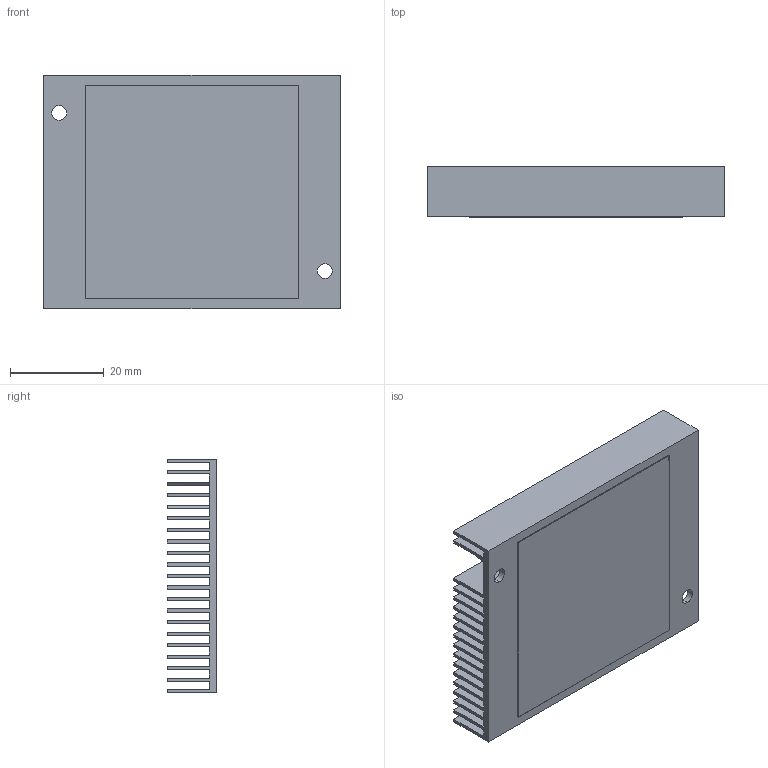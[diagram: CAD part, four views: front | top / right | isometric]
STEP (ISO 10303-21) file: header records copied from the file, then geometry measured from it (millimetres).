
FILE_DESCRIPTION (( 'STEP AP214' ), '1' );
FILE_NAME ('SZ00L.STEP', '2023-03-30T00:06:19', ( '' ), ( '' ), 'SwSTEP 2.0', 'SolidWorks 2020', '' );
FILE_SCHEMA (( 'AUTOMOTIVE_DESIGN' ));
Length unit declared in the file: millimetre
Products named in the file (1): SZ00L
Bounding box: 63.37 x 10.63 x 50 mm (x, y, z)
Volume: 13095.4 mm3; surface area: 34310.7 mm2
Topology: 2 solids, 2 shells, 104 faces, 300 edges, 200 vertices
Faces by surface type: plane 98, cylinder 6
Entity records: 4563 total; most frequent: CARTESIAN_POINT 605, ORIENTED_EDGE 600, DIRECTION 534, EDGE_CURVE 300, VECTOR 276, LINE 276, VERTEX_POINT 200, AXIS2_PLACEMENT_3D 129
